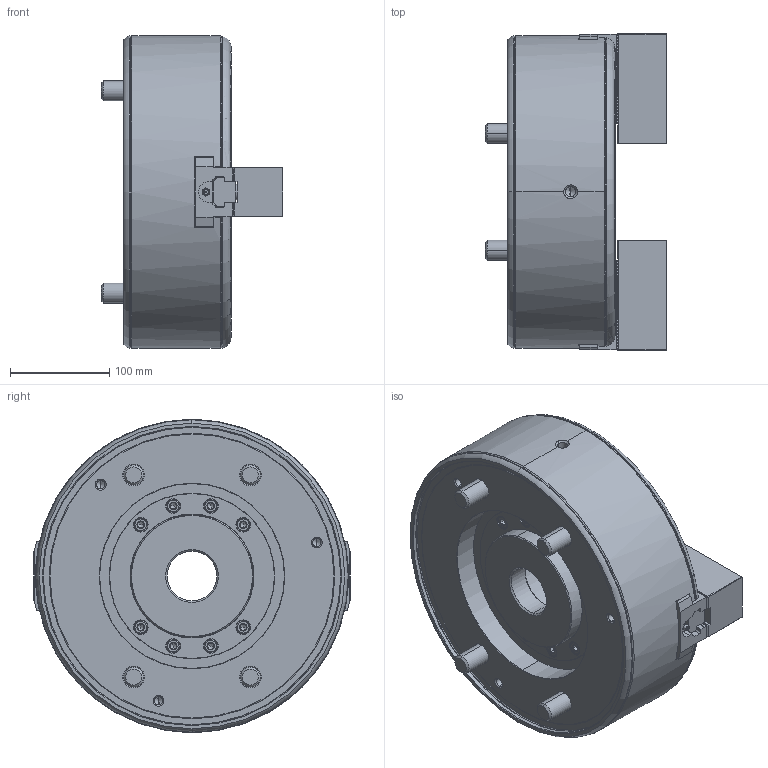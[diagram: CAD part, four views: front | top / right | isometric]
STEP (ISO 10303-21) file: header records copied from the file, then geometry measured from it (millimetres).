
FILE_DESCRIPTION (( 'STEP AP214' ), '1' );
FILE_NAME ('BRT12_UC.STEP', '2023-06-15T07:28:54', ( '' ), ( '' ), 'SwSTEP 2.0', 'SolidWorks 2020', '' );
FILE_SCHEMA (( 'AUTOMOTIVE_DESIGN' ));
Length unit declared in the file: millimetre
Products named in the file (5): Part1^61P117278; BRT12_UC; 61P318349; 0030116035; 61P447364
Assembly tree (9 placements, depth 2):
  BRT12_UC
    61P318349  x2
    61P447364  x2
    0030116035  x4
    Part1^61P117278
Bounding box: 183 x 318.99 x 315 mm (x, y, z)
Volume: 7273722.3 mm3; surface area: 530506.2 mm2
Topology: 9 solids, 34 shells, 3467 faces, 9605 edges, 6270 vertices
Faces by surface type: plane 2516, cylinder 373, cone 322, bspline 177, torus 74, sphere 5
Entity records: 99458 total; most frequent: CARTESIAN_POINT 26962, ORIENTED_EDGE 15768, DIRECTION 13604, EDGE_CURVE 7884, LINE 5934, VECTOR 5934, VERTEX_POINT 5171, AXIS2_PLACEMENT_3D 3835
